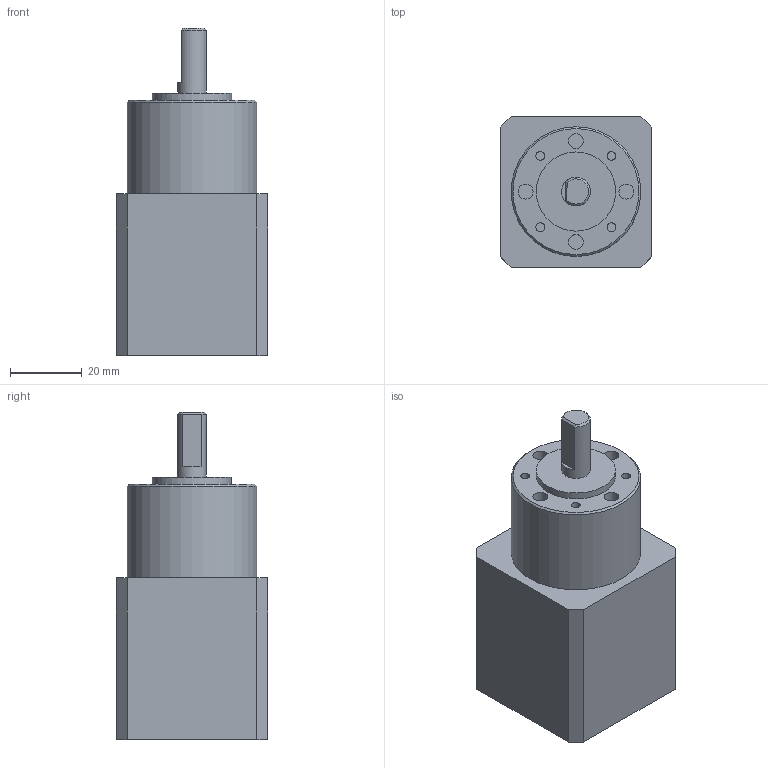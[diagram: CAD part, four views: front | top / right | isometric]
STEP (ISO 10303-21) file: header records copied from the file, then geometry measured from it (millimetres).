
FILE_DESCRIPTION(/* description */ ('Alibre Inc.'),/* implementation_level */ '2;1');
FILE_NAME(/* name */ 'export0',/* time_stamp */ '2013-06-27T09:17:51-06:00',/* author */ (''),/* organization */ (''),/* preprocessor_version */ 'ST-DEVELOPER v14',/* originating_system */ 'Alibre',/* authorisation */ '');
FILE_SCHEMA (('ALIBRE_SCHEMA','CONFIG_CONTROL_DESIGN'));
Length unit declared in the file: centimetre
Products named in the file (1): ID_1
Bounding box: 42 x 42 x 91 mm (x, y, z)
Volume: 106283.8 mm3; surface area: 14601.8 mm2
Topology: 1 solids, 1 shells, 37 faces, 69 edges, 45 vertices
Faces by surface type: plane 24, cylinder 11, cone 2
Full cylindrical faces by diameter (mm): 2.459 x4, 4.134 x4, 8 x1, 22 x1, 36 x1
Entity records: 3386 total; most frequent: CARTESIAN_POINT 454, REFERENCEDEPENDENTUV 241, DIRECTION 212, CONSTRAINTPAIRUV 187, REFERENCEPOINTUV 138, CIRCLE 117, ORIENTED_EDGE 112, PERSISTANTTOPOLOGYATTRIBUTE 104
